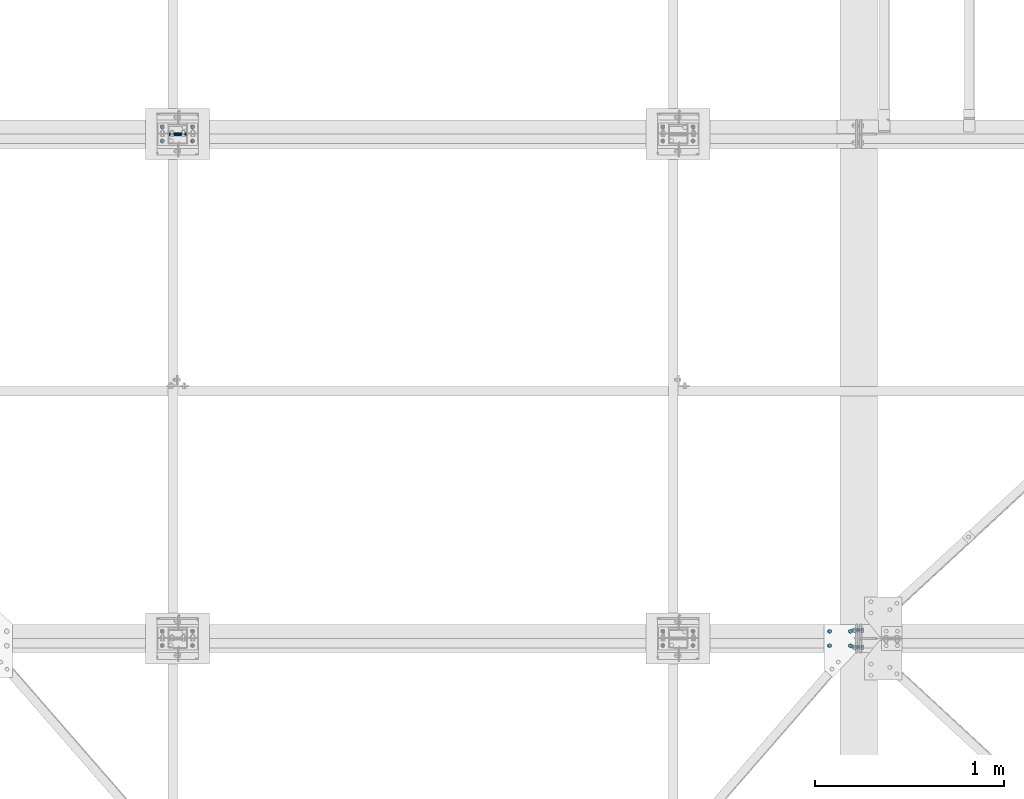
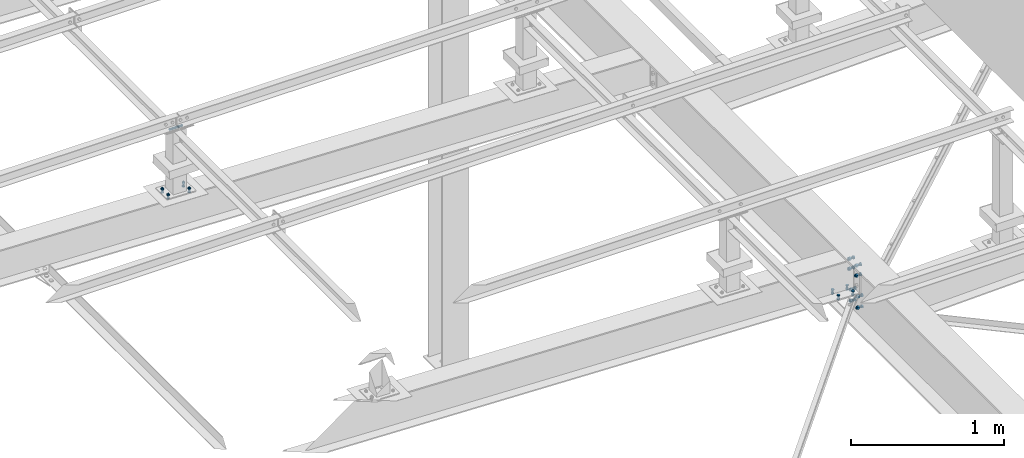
# One storey, part 177 of 3134: 7 mechanical fasteners, 3 elements without a shape of their own.
"""IFC2X3 building model written with IfcOpenShell, lengths in millimetres."""

from ifc_helpers import new_model, si_unit, frame, origin_with_axes, place, context, subcontext, project, spatial, faceted_brep, source, transform, mapped, material, type_object, element, aggregate, save


model = new_model("IFC2X3")

# Units and contexts
model_context = context("Model", 3, precision=1e-05, world=origin_with_axes())
body_context = subcontext(model_context, "Body", "Model", "MODEL_VIEW")
ifc_project = project(units=[si_unit("LENGTHUNIT", "METRE", prefix="MILLI"), si_unit("AREAUNIT", "SQUARE_METRE"), si_unit("VOLUMEUNIT", "CUBIC_METRE"), si_unit("MASSUNIT", "GRAM", prefix="KILO"), si_unit("TIMEUNIT", "SECOND"), si_unit("PLANEANGLEUNIT", "RADIAN"), si_unit("SOLIDANGLEUNIT", "STERADIAN"), si_unit("THERMODYNAMICTEMPERATUREUNIT", "DEGREE_CELSIUS"), si_unit("LUMINOUSINTENSITYUNIT", "LUMEN")], contexts=[model_context])

# Site, building, storey
site_placement = place(None, origin_with_axes())
site = spatial("IfcSite", under=ifc_project, at=site_placement, CompositionType="ELEMENT")
building_placement = place(site_placement, origin_with_axes())
building = spatial("IfcBuilding", under=site, at=building_placement, Name="Undefined", CompositionType="ELEMENT")
storey_placement = place(building_placement, origin_with_axes())
storey = spatial("IfcBuildingStorey", under=building, at=storey_placement, Name="Undefined", CompositionType="ELEMENT", Elevation=0.0)

# Assembly, mechanical fasteners
assembly_1_placement = place(storey_placement, origin_with_axes())
assembly_1 = element("IfcElementAssembly", 1, at=assembly_1_placement, inside=storey, Name="IPE500", AssemblyPlace="NOTDEFINED", PredefinedType="RIGID_FRAME")
ifc_material = material(Name="8.8")
mechanical_fastener_type = type_object("IfcMechanicalFastenerType", Name="Bolt assembly")
shared_shape_1 = source(origin_with_axes(), body_context, "Body", "Brep", [
    faceted_brep([(13.856406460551, 0.0, 0.0), (6.92820323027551, 0.0, 12.0), (-6.92820323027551, 0.0, 12.0), (-13.856406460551, 0.0, 1.69692038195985e-15), (-6.92820323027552, 0.0, -12.0), (6.9282032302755, 0.0, -12.0), (6.9282032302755, 9.99999995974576, -12.0), (-6.92820323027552, 9.99999995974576, -12.0), (-13.856406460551, 9.99999995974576, 1.69692038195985e-15), (-6.92820323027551, 9.99999995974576, 12.0), (6.92820323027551, 9.99999995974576, 12.0), (13.856406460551, 9.99999995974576, 0.0), (8.0, 9.99999995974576, 0.0), (6.92820323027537, 9.99999995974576, 4.00000000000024), (3.99999999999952, 9.99999995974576, 6.92820323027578), (-8.29068785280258e-13, 9.99999995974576, 8.0), (-4.00000000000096, 9.99999995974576, 6.92820323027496), (-6.9282032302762, 9.99999995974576, 3.99999999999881), (-8.0, 9.99999995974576, -1.65813757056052e-12), (-6.92820323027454, 9.99999995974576, -4.00000000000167), (-3.99999999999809, 9.99999995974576, -6.92820323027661), (2.47832457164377e-12, 9.99999995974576, -8.0), (4.00000000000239, 9.99999995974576, -6.92820323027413), (6.92820323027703, 9.99999995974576, -3.99999999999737), (6.92820323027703, 49.9999999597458, -3.99999999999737), (4.00000000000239, 49.9999999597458, -6.92820323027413), (2.47832457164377e-12, 49.9999999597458, -8.0), (-3.99999999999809, 49.9999999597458, -6.92820323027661), (-6.92820323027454, 49.9999999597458, -4.00000000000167), (-8.0, 49.9999999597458, -1.65813757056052e-12), (-6.9282032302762, 49.9999999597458, 3.99999999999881), (-4.00000000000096, 49.9999999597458, 6.92820323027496), (-8.29068785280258e-13, 49.9999999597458, 8.0), (3.99999999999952, 49.9999999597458, 6.92820323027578), (6.92820323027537, 49.9999999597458, 4.00000000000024), (8.0, 49.9999999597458, 0.0), (13.856406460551, 30.1999997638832, 0.0), (6.92820323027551, 30.1999997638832, 12.0), (-6.92820323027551, 30.1999997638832, 12.0), (-13.856406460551, 30.1999997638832, 1.69692038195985e-15), (-6.92820323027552, 30.1999997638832, -12.0), (6.9282032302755, 30.1999997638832, -12.0), (6.9282032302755, 43.1999997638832, -12.0), (-6.92820323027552, 43.1999997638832, -12.0), (-13.856406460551, 43.1999997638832, 1.69692038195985e-15), (-6.92820323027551, 43.1999997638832, 12.0), (6.92820323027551, 43.1999997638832, 12.0), (13.856406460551, 43.1999997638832, 0.0)], [[[0, 1, 2, 3, 4, 5]], [[6, 7, 8, 9, 10, 11]], [[0, 11, 10, 1]], [[1, 10, 9, 2]], [[2, 9, 8, 3]], [[3, 8, 7, 4]], [[4, 7, 6, 5]], [[5, 6, 11, 0]], [[12, 13, 14, 15, 16, 17, 18, 19, 20, 21, 22, 23]], [[24, 25, 26, 27, 28, 29, 30, 31, 32, 33, 34, 35]], [[12, 35, 34, 13]], [[13, 34, 33, 14]], [[14, 33, 32, 15]], [[15, 32, 31, 16]], [[16, 31, 30, 17]], [[17, 30, 29, 18]], [[18, 29, 28, 19]], [[19, 28, 27, 20]], [[20, 27, 26, 21]], [[21, 26, 25, 22]], [[22, 25, 24, 23]], [[23, 24, 35, 12]], [[36, 37, 38, 39, 40, 41]], [[42, 43, 44, 45, 46, 47]], [[36, 47, 46, 37]], [[37, 46, 45, 38]], [[38, 45, 44, 39]], [[39, 44, 43, 40]], [[40, 43, 42, 41]], [[41, 42, 47, 36]]]),
    faceted_brep([(9.0, 20.0999997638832, 0.0), (7.79422863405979, 20.0999997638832, 4.50000000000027), (4.49999999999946, 20.0999997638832, 7.79422863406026), (-9.3270238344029e-13, 20.0999997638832, 9.0), (-4.50000000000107, 20.0999997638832, 7.79422863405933), (-7.79422863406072, 20.0999997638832, 4.49999999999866), (-9.0, 20.0999997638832, -1.86540476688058e-12), (-7.79422863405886, 20.0999997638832, -4.50000000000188), (-4.49999999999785, 20.0999997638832, -7.79422863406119), (2.78811514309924e-12, 20.0999997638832, -9.0), (4.50000000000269, 20.0999997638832, -7.7942286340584), (7.79422863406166, 20.0999997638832, -4.49999999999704), (7.79422863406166, 30.1999997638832, -4.49999999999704), (4.50000000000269, 30.1999997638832, -7.7942286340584), (2.78811514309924e-12, 30.1999997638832, -9.0), (-4.49999999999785, 30.1999997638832, -7.79422863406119), (-7.79422863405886, 30.1999997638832, -4.50000000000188), (-9.0, 30.1999997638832, -1.86540476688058e-12), (-7.79422863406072, 30.1999997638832, 4.49999999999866), (-4.50000000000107, 30.1999997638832, 7.79422863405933), (-9.3270238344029e-13, 30.1999997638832, 9.0), (4.49999999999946, 30.1999997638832, 7.79422863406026), (7.79422863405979, 30.1999997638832, 4.50000000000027), (9.0, 30.1999997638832, 0.0), (9.0, 10.1000023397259, 0.0), (7.79422863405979, 10.1000023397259, 4.50000000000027), (4.49999999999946, 10.1000023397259, 7.79422863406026), (-9.3270238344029e-13, 10.1000023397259, 9.0), (-4.50000000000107, 10.1000023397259, 7.79422863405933), (-7.79422863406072, 10.1000023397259, 4.49999999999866), (-9.0, 10.1000023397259, -1.86540476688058e-12), (-7.79422863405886, 10.1000023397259, -4.50000000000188), (-4.49999999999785, 10.1000023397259, -7.79422863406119), (2.78811514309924e-12, 10.1000023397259, -9.0), (4.50000000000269, 10.1000023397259, -7.7942286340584), (7.79422863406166, 10.1000023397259, -4.49999999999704), (7.79422863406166, 20.2999997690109, -4.49999999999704), (4.50000000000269, 20.2999997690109, -7.7942286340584), (2.78811514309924e-12, 20.2999997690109, -9.0), (-4.49999999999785, 20.2999997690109, -7.79422863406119), (-7.79422863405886, 20.2999997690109, -4.50000000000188), (-9.0, 20.2999997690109, -1.86540476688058e-12), (-7.79422863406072, 20.2999997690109, 4.49999999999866), (-4.50000000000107, 20.2999997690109, 7.79422863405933), (-9.3270238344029e-13, 20.2999997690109, 9.0), (4.49999999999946, 20.2999997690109, 7.79422863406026), (7.79422863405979, 20.2999997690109, 4.50000000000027), (9.0, 20.2999997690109, 0.0)], [[[0, 1, 2, 3, 4, 5, 6, 7, 8, 9, 10, 11]], [[12, 13, 14, 15, 16, 17, 18, 19, 20, 21, 22, 23]], [[0, 23, 22, 1]], [[1, 22, 21, 2]], [[2, 21, 20, 3]], [[3, 20, 19, 4]], [[4, 19, 18, 5]], [[5, 18, 17, 6]], [[6, 17, 16, 7]], [[7, 16, 15, 8]], [[8, 15, 14, 9]], [[9, 14, 13, 10]], [[10, 13, 12, 11]], [[11, 12, 23, 0]], [[24, 25, 26, 27, 28, 29, 30, 31, 32, 33, 34, 35]], [[36, 37, 38, 39, 40, 41, 42, 43, 44, 45, 46, 47]], [[24, 47, 46, 25]], [[25, 46, 45, 26]], [[26, 45, 44, 27]], [[27, 44, 43, 28]], [[28, 43, 42, 29]], [[29, 42, 41, 30]], [[30, 41, 40, 31]], [[31, 40, 39, 32]], [[32, 39, 38, 33]], [[33, 38, 37, 34]], [[34, 37, 36, 35]], [[35, 36, 47, 24]]]),
])
mechanical_fastener_1_placement = place(assembly_1_placement, frame((9310.09999986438, 34867.5, 3631.67000001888), z_axis=(0.0, 1.0, 0.0), x_axis=(0.0, 0.0, -1.0)))
mechanical_fastener_1 = element("IfcMechanicalFastener", 2, at=mechanical_fastener_1_placement, type_object=mechanical_fastener_type, material=ifc_material, Name="Bolt assembly", NominalDiameter=16.0, NominalLength=40.0, context=body_context, shape_type="MappedRepresentation", body=[
    mapped(shared_shape_1, transform((0.0, 0.0, 0.0))),
    mapped(shared_shape_1, transform((80.0, 0.0, 0.0))),
])
mechanical_fastener_2_placement = place(assembly_1_placement, frame((9310.09999986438, 34957.5, 3631.67000001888), z_axis=(0.0, 1.0, 0.0), x_axis=(0.0, 0.0, -1.0)))
mechanical_fastener_2 = element("IfcMechanicalFastener", 3, at=mechanical_fastener_2_placement, type_object=mechanical_fastener_type, material=ifc_material, Name="Bolt assembly", NominalDiameter=16.0, NominalLength=40.0, context=body_context, shape_type="MappedRepresentation", body=[
    mapped(shared_shape_1, transform((0.0, 0.0, 0.0))),
    mapped(shared_shape_1, transform((80.0, 0.0, 0.0))),
])

# Assembly, mechanical fastener
assembly_2_placement = place(storey_placement, origin_with_axes())
assembly_2 = element("IfcElementAssembly", 4, at=assembly_2_placement, inside=storey, Name="PL8", AssemblyPlace="NOTDEFINED", PredefinedType="RIGID_FRAME")
shared_shape_2 = source(origin_with_axes(), body_context, "Body", "Brep", [
    faceted_brep([(10.9696551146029, -21.2001618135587, 0.0), (5.48482755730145, -21.2001618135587, 9.5), (-5.48482755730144, -21.2001618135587, 9.5), (-10.9696551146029, -21.2001618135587, 1.34339530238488e-15), (-5.48482755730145, -21.2001618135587, -9.5), (5.48482755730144, -21.2001618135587, -9.50000000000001), (5.48482755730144, -13.2001618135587, -9.50000000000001), (-5.48482755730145, -13.2001618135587, -9.5), (-10.9696551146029, -13.2001618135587, 1.34339530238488e-15), (-5.48482755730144, -13.2001618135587, 9.5), (5.48482755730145, -13.2001618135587, 9.5), (10.9696551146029, -13.2001618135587, 0.0), (6.0, -13.2001618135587, 0.0), (5.19615242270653, -13.2001618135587, 3.00000000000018), (2.99999999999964, -13.2001618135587, 5.19615242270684), (-6.21801588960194e-13, -13.2001618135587, 6.0), (-3.00000000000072, -13.2001618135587, 5.19615242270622), (-5.19615242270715, -13.2001618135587, 2.9999999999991), (-6.0, -13.2001618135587, -1.24360317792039e-12), (-5.19615242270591, -13.2001618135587, -3.00000000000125), (-2.99999999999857, -13.2001618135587, -5.19615242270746), (1.85874342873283e-12, -13.2001618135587, -6.0), (3.00000000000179, -13.2001618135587, -5.1961524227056), (5.19615242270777, -13.2001618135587, -2.99999999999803), (5.19615242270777, 21.7998381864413, -2.99999999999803), (3.00000000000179, 21.7998381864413, -5.1961524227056), (1.85874342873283e-12, 21.7998381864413, -6.0), (-2.99999999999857, 21.7998381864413, -5.19615242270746), (-5.19615242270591, 21.7998381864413, -3.00000000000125), (-6.0, 21.7998381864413, -1.24360317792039e-12), (-5.19615242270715, 21.7998381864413, 2.9999999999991), (-3.00000000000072, 21.7998381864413, 5.19615242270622), (-6.21801588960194e-13, 21.7998381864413, 6.0), (2.99999999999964, 21.7998381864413, 5.19615242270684), (5.19615242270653, 21.7998381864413, 3.00000000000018), (6.0, 21.7998381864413, 0.0), (10.9696551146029, 4.00000000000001, 0.0), (5.48482755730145, 4.00000000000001, 9.5), (-5.48482755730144, 4.00000000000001, 9.5), (-10.9696551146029, 4.00000000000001, 1.34339530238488e-15), (-5.48482755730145, 4.00000000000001, -9.5), (5.48482755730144, 4.00000000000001, -9.50000000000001), (5.48482755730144, 14.0, -9.50000000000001), (-5.48482755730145, 14.0, -9.5), (-10.9696551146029, 14.0, 1.34339530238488e-15), (-5.48482755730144, 14.0, 9.5), (5.48482755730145, 14.0, 9.5), (10.9696551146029, 14.0, 0.0)], [[[0, 1, 2, 3, 4, 5]], [[6, 7, 8, 9, 10, 11]], [[0, 11, 10, 1]], [[1, 10, 9, 2]], [[2, 9, 8, 3]], [[3, 8, 7, 4]], [[4, 7, 6, 5]], [[5, 6, 11, 0]], [[12, 13, 14, 15, 16, 17, 18, 19, 20, 21, 22, 23]], [[24, 25, 26, 27, 28, 29, 30, 31, 32, 33, 34, 35]], [[12, 35, 34, 13]], [[13, 34, 33, 14]], [[14, 33, 32, 15]], [[15, 32, 31, 16]], [[16, 31, 30, 17]], [[17, 30, 29, 18]], [[18, 29, 28, 19]], [[19, 28, 27, 20]], [[20, 27, 26, 21]], [[21, 26, 25, 22]], [[22, 25, 24, 23]], [[23, 24, 35, 12]], [[36, 37, 38, 39, 40, 41]], [[42, 43, 44, 45, 46, 47]], [[36, 47, 46, 37]], [[37, 46, 45, 38]], [[38, 45, 44, 39]], [[39, 44, 43, 40]], [[40, 43, 42, 41]], [[41, 42, 47, 36]]]),
    faceted_brep([(7.0, -13.1001618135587, 0.0), (6.06217782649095, -13.1001618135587, 3.50000000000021), (3.49999999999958, -13.1001618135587, 6.06217782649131), (-7.25435187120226e-13, -13.1001618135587, 7.0), (-3.50000000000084, -13.1001618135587, 6.06217782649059), (-6.06217782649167, -13.1001618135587, 3.49999999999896), (-7.0, -13.1001618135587, -1.45087037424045e-12), (-6.06217782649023, -13.1001618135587, -3.50000000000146), (-3.49999999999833, -13.1001618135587, -6.06217782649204), (2.1685340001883e-12, -13.1001618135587, -7.0), (3.50000000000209, -13.1001618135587, -6.06217782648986), (6.0621778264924, -13.1001618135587, -3.4999999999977), (6.0621778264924, -3.90018162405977, -3.4999999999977), (3.50000000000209, -3.90014650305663, -6.06217782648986), (2.1685340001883e-12, -3.90018162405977, -7.0), (-3.49999999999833, -3.90014650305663, -6.06217782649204), (-6.06217782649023, -3.90014650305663, -3.50000000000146), (-7.0, -3.90018162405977, -1.45087037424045e-12), (-6.06217782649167, -3.90014650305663, 3.49999999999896), (-3.50000000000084, -3.90014650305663, 6.06217782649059), (-7.25435187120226e-13, -3.90018162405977, 7.0), (3.49999999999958, -3.90018162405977, 6.06217782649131), (6.06217782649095, -3.90018162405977, 3.50000000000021), (7.0, -3.90018162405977, 0.0), (7.0, -4.09998541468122, 0.0), (6.06217782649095, -4.09998541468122, 3.50000000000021), (3.49999999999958, -4.09998541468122, 6.06217782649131), (-7.25435187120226e-13, -4.09998541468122, 7.0), (-3.50000000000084, -4.09998541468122, 6.06217782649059), (-6.06217782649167, -4.09998541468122, 3.49999999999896), (-7.0, -4.09998541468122, -1.45087037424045e-12), (-6.06217782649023, -4.09998541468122, -3.50000000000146), (-3.49999999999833, -4.09998541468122, -6.06217782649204), (2.1685340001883e-12, -4.09998541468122, -7.0), (3.50000000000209, -4.09998541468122, -6.06217782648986), (6.0621778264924, -4.09998541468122, -3.4999999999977), (6.0621778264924, 4.00000000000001, -3.4999999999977), (3.50000000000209, 4.00000000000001, -6.06217782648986), (2.1685340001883e-12, 4.00000000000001, -7.0), (-3.49999999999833, 4.00000000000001, -6.06217782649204), (-6.06217782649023, 4.00000000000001, -3.50000000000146), (-7.0, 4.00000000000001, -1.45087037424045e-12), (-6.06217782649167, 4.00000000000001, 3.49999999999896), (-3.50000000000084, 4.00000000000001, 6.06217782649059), (-7.25435187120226e-13, 4.00000000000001, 7.0), (3.49999999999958, 4.00000000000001, 6.06217782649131), (6.06217782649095, 4.00000000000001, 3.50000000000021), (7.0, 4.00000000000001, 0.0)], [[[0, 1, 2, 3, 4, 5, 6, 7, 8, 9, 10, 11]], [[12, 13, 14, 15, 16, 17, 18, 19, 20, 21, 22, 23]], [[0, 23, 22, 1]], [[1, 22, 21, 2]], [[2, 21, 20, 3]], [[3, 20, 19, 4]], [[4, 19, 18, 5]], [[5, 18, 17, 6]], [[6, 17, 16, 7]], [[7, 16, 15, 8]], [[8, 15, 14, 9]], [[9, 14, 13, 10]], [[10, 13, 12, 11]], [[11, 12, 23, 0]], [[24, 25, 26, 27, 28, 29, 30, 31, 32, 33, 34, 35]], [[36, 37, 38, 39, 40, 41, 42, 43, 44, 45, 46, 47]], [[24, 47, 46, 25]], [[25, 46, 45, 26]], [[26, 45, 44, 27]], [[27, 44, 43, 28]], [[28, 43, 42, 29]], [[29, 42, 41, 30]], [[30, 41, 40, 31]], [[31, 40, 39, 32]], [[32, 39, 38, 33]], [[33, 38, 37, 34]], [[34, 37, 36, 35]], [[35, 36, 47, 24]]]),
])
mechanical_fastener_3_placement = place(assembly_2_placement, frame((9196.19115170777, 34950.5, 3416.94405108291), z_axis=(0.999388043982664, 0.0, -0.0349791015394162), x_axis=(0.0, -1.0, 0.0)))
mechanical_fastener_3 = element("IfcMechanicalFastener", 5, at=mechanical_fastener_3_placement, type_object=mechanical_fastener_type, material=ifc_material, Name="Bolt assembly", NominalDiameter=12.0, NominalLength=35.0, context=body_context, shape_type="MappedRepresentation", body=[
    mapped(shared_shape_2, transform((0.0, -2.31011654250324e-10, -55.0000000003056))),
    mapped(shared_shape_2, transform((76.0, -2.31011654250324e-10, -55.0000000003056))),
    mapped(shared_shape_2, transform((0.0, 2.29192664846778e-10, 55.0000000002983))),
    mapped(shared_shape_2, transform((76.0, 2.29192664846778e-10, 55.0000000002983))),
])
aggregate(assembly_2, [mechanical_fastener_3])

# Mechanical fastener
shared_shape_3 = source(origin_with_axes(), body_context, "Body", "Brep", [
    faceted_brep([(13.856406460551, -10.0, 0.0), (6.92820323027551, -10.0, 12.0), (-6.92820323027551, -10.0, 12.0), (-13.856406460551, -10.0, 1.69692038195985e-15), (-6.92820323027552, -10.0, -12.0), (6.9282032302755, -10.0, -12.0), (6.9282032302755, 0.0, -12.0), (-6.92820323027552, 0.0, -12.0), (-13.856406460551, 0.0, 1.69692038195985e-15), (-6.92820323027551, 0.0, 12.0), (6.92820323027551, 0.0, 12.0), (13.856406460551, 0.0, 0.0), (8.0, 0.0, 0.0), (6.92820323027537, 0.0, 4.00000000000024), (3.99999999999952, 0.0, 6.92820323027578), (-8.29068785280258e-13, 0.0, 8.0), (-4.00000000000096, 0.0, 6.92820323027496), (-6.9282032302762, 0.0, 3.99999999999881), (-8.0, 0.0, -1.65813757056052e-12), (-6.92820323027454, 0.0, -4.00000000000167), (-3.99999999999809, 0.0, -6.92820323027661), (2.47832457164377e-12, 0.0, -8.0), (4.00000000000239, 0.0, -6.92820323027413), (6.92820323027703, 0.0, -3.99999999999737), (6.92820323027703, 40.0, -3.99999999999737), (4.00000000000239, 40.0, -6.92820323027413), (2.47832457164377e-12, 40.0, -8.0), (-3.99999999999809, 40.0, -6.92820323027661), (-6.92820323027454, 40.0, -4.00000000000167), (-8.0, 40.0, -1.65813757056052e-12), (-6.9282032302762, 40.0, 3.99999999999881), (-4.00000000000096, 40.0, 6.92820323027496), (-8.29068785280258e-13, 40.0, 8.0), (3.99999999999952, 40.0, 6.92820323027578), (6.92820323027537, 40.0, 4.00000000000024), (8.0, 40.0, 0.0), (13.856406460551, 20.1999997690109, 0.0), (6.92820323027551, 20.1999997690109, 12.0), (-6.92820323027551, 20.1999997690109, 12.0), (-13.856406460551, 20.1999997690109, 1.69692038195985e-15), (-6.92820323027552, 20.1999997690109, -12.0), (6.9282032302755, 20.1999997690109, -12.0), (6.9282032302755, 33.1999997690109, -12.0), (-6.92820323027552, 33.1999997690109, -12.0), (-13.856406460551, 33.1999997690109, 1.69692038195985e-15), (-6.92820323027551, 33.1999997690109, 12.0), (6.92820323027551, 33.1999997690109, 12.0), (13.856406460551, 33.1999997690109, 0.0)], [[[0, 1, 2, 3, 4, 5]], [[6, 7, 8, 9, 10, 11]], [[0, 11, 10, 1]], [[1, 10, 9, 2]], [[2, 9, 8, 3]], [[3, 8, 7, 4]], [[4, 7, 6, 5]], [[5, 6, 11, 0]], [[12, 13, 14, 15, 16, 17, 18, 19, 20, 21, 22, 23]], [[24, 25, 26, 27, 28, 29, 30, 31, 32, 33, 34, 35]], [[12, 35, 34, 13]], [[13, 34, 33, 14]], [[14, 33, 32, 15]], [[15, 32, 31, 16]], [[16, 31, 30, 17]], [[17, 30, 29, 18]], [[18, 29, 28, 19]], [[19, 28, 27, 20]], [[20, 27, 26, 21]], [[21, 26, 25, 22]], [[22, 25, 24, 23]], [[23, 24, 35, 12]], [[36, 37, 38, 39, 40, 41]], [[42, 43, 44, 45, 46, 47]], [[36, 47, 46, 37]], [[37, 46, 45, 38]], [[38, 45, 44, 39]], [[39, 44, 43, 40]], [[40, 43, 42, 41]], [[41, 42, 47, 36]]]),
    faceted_brep([(9.0, 0.100000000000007, 0.0), (7.79422863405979, 0.100000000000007, 4.50000000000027), (4.49999999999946, 0.100000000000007, 7.79422863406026), (-9.3270238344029e-13, 0.100000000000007, 9.0), (-4.50000000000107, 0.100000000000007, 7.79422863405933), (-7.79422863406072, 0.100000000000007, 4.49999999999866), (-9.0, 0.100000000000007, -1.86540476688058e-12), (-7.79422863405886, 0.100000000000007, -4.50000000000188), (-4.49999999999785, 0.100000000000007, -7.79422863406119), (2.78811514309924e-12, 0.100000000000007, -9.0), (4.50000000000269, 0.100000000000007, -7.7942286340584), (7.79422863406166, 0.100000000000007, -4.49999999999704), (7.79422863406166, 10.1000023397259, -4.49999999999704), (4.50000000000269, 10.1000023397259, -7.7942286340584), (2.78811514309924e-12, 10.1000023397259, -9.0), (-4.49999999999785, 10.1000023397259, -7.79422863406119), (-7.79422863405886, 10.1000023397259, -4.50000000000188), (-9.0, 10.1000023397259, -1.86540476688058e-12), (-7.79422863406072, 10.1000023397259, 4.49999999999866), (-4.50000000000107, 10.1000023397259, 7.79422863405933), (-9.3270238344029e-13, 10.1000023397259, 9.0), (4.49999999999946, 10.1000023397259, 7.79422863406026), (7.79422863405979, 10.1000023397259, 4.50000000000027), (9.0, 10.1000023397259, 0.0), (9.0, 9.89999999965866, 0.0), (7.79422863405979, 9.89999999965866, 4.50000000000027), (4.49999999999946, 9.89999999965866, 7.79422863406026), (-9.3270238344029e-13, 9.89999999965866, 9.0), (-4.50000000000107, 9.89999999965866, 7.79422863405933), (-7.79422863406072, 9.89999999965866, 4.49999999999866), (-9.0, 9.89999999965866, -1.86540476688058e-12), (-7.79422863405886, 9.89999999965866, -4.50000000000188), (-4.49999999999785, 9.89999999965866, -7.79422863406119), (2.78811514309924e-12, 9.89999999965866, -9.0), (4.50000000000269, 9.89999999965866, -7.7942286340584), (7.79422863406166, 9.89999999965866, -4.49999999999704), (7.79422863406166, 20.1999997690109, -4.49999999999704), (4.50000000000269, 20.1999997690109, -7.7942286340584), (2.78811514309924e-12, 20.1999997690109, -9.0), (-4.49999999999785, 20.1999997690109, -7.79422863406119), (-7.79422863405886, 20.1999997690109, -4.50000000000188), (-9.0, 20.1999997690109, -1.86540476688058e-12), (-7.79422863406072, 20.1999997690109, 4.49999999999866), (-4.50000000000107, 20.1999997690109, 7.79422863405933), (-9.3270238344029e-13, 20.1999997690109, 9.0), (4.49999999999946, 20.1999997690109, 7.79422863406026), (7.79422863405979, 20.1999997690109, 4.50000000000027), (9.0, 20.1999997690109, 0.0)], [[[0, 1, 2, 3, 4, 5, 6, 7, 8, 9, 10, 11]], [[12, 13, 14, 15, 16, 17, 18, 19, 20, 21, 22, 23]], [[0, 23, 22, 1]], [[1, 22, 21, 2]], [[2, 21, 20, 3]], [[3, 20, 19, 4]], [[4, 19, 18, 5]], [[5, 18, 17, 6]], [[6, 17, 16, 7]], [[7, 16, 15, 8]], [[8, 15, 14, 9]], [[9, 14, 13, 10]], [[10, 13, 12, 11]], [[11, 12, 23, 0]], [[24, 25, 26, 27, 28, 29, 30, 31, 32, 33, 34, 35]], [[36, 37, 38, 39, 40, 41, 42, 43, 44, 45, 46, 47]], [[24, 47, 46, 25]], [[25, 46, 45, 26]], [[26, 45, 44, 27]], [[27, 44, 43, 28]], [[28, 43, 42, 29]], [[29, 42, 41, 30]], [[30, 41, 40, 31]], [[31, 40, 39, 32]], [[32, 39, 38, 33]], [[33, 38, 37, 34]], [[34, 37, 36, 35]], [[35, 36, 47, 24]]]),
])
mechanical_fastener_4_placement = place(assembly_1_placement, frame((9310.09999986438, 34867.5, 3381.67000001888), z_axis=(0.0, 1.0, 0.0), x_axis=(0.0, 0.0, -1.0)))
mechanical_fastener_4 = element("IfcMechanicalFastener", 6, at=mechanical_fastener_4_placement, type_object=mechanical_fastener_type, material=ifc_material, Name="Bolt assembly", NominalDiameter=16.0, NominalLength=40.0, context=body_context, shape_type="MappedRepresentation", body=[
    mapped(shared_shape_3, transform((0.0, 0.0, 0.0))),
    mapped(shared_shape_3, transform((90.0, 0.0, 0.0))),
])

mechanical_fastener_5_placement = place(assembly_1_placement, frame((9310.09999986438, 34957.5, 3381.67000001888), z_axis=(0.0, 1.0, 0.0), x_axis=(0.0, 0.0, -1.0)))
mechanical_fastener_5 = element("IfcMechanicalFastener", 7, at=mechanical_fastener_5_placement, type_object=mechanical_fastener_type, material=ifc_material, Name="Bolt assembly", NominalDiameter=16.0, NominalLength=40.0, context=body_context, shape_type="MappedRepresentation", body=[
    mapped(shared_shape_3, transform((0.0, 0.0, 0.0))),
    mapped(shared_shape_3, transform((90.0, 0.0, 0.0))),
])

aggregate(assembly_1, [mechanical_fastener_1, mechanical_fastener_2, mechanical_fastener_4, mechanical_fastener_5])

# Assembly, mechanical fasteners
assembly_3_placement = place(storey_placement, origin_with_axes())
assembly_3 = element("IfcElementAssembly", 8, at=assembly_3_placement, inside=storey, AssemblyPlace="NOTDEFINED", PredefinedType="RIGID_FRAME")
shared_shape_4 = source(origin_with_axes(), body_context, "Body", "Brep", [
    faceted_brep([(10.9696551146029, -4.18280906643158, 0.0), (5.48482755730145, -4.18280906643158, 9.5), (-5.48482755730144, -4.18280906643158, 9.5), (-10.9696551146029, -4.18280906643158, 1.34339530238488e-15), (-5.48482755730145, -4.18280906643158, -9.5), (5.48482755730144, -4.18280906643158, -9.50000000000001), (5.48482755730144, 3.81719093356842, -9.50000000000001), (-5.48482755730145, 3.81719093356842, -9.5), (-10.9696551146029, 3.81719093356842, 1.34339530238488e-15), (-5.48482755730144, 3.81719093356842, 9.5), (5.48482755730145, 3.81719093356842, 9.5), (10.9696551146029, 3.81719093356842, 0.0), (6.0, 3.81719093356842, 0.0), (5.19615242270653, 3.81719093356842, 3.00000000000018), (2.99999999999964, 3.81719093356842, 5.19615242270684), (-6.21801588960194e-13, 3.81719093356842, 6.0), (-3.00000000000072, 3.81719093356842, 5.19615242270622), (-5.19615242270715, 3.81719093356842, 2.9999999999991), (-6.0, 3.81719093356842, -1.24360317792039e-12), (-5.19615242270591, 3.81719093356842, -3.00000000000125), (-2.99999999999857, 3.81719093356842, -5.19615242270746), (1.85874342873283e-12, 3.81719093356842, -6.0), (3.00000000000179, 3.81719093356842, -5.1961524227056), (5.19615242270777, 3.81719093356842, -2.99999999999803), (5.19615242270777, 38.8171909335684, -2.99999999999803), (3.00000000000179, 38.8171909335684, -5.1961524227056), (1.85874342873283e-12, 38.8171909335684, -6.0), (-2.99999999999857, 38.8171909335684, -5.19615242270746), (-5.19615242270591, 38.8171909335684, -3.00000000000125), (-6.0, 38.8171909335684, -1.24360317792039e-12), (-5.19615242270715, 38.8171909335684, 2.9999999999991), (-3.00000000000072, 38.8171909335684, 5.19615242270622), (-6.21801588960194e-13, 38.8171909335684, 6.0), (2.99999999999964, 38.8171909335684, 5.19615242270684), (5.19615242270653, 38.8171909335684, 3.00000000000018), (6.0, 38.8171909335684, 0.0), (10.9696551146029, 23.0139082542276, 0.0), (5.48482755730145, 23.0139082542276, 9.5), (-5.48482755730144, 23.0139082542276, 9.5), (-10.9696551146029, 23.0139082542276, 1.34339530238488e-15), (-5.48482755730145, 23.0139082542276, -9.5), (5.48482755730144, 23.0139082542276, -9.50000000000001), (5.48482755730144, 33.0139082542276, -9.50000000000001), (-5.48482755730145, 33.0139082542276, -9.5), (-10.9696551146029, 33.0139082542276, 1.34339530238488e-15), (-5.48482755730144, 33.0139082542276, 9.5), (5.48482755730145, 33.0139082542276, 9.5), (10.9696551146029, 33.0139082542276, 0.0)], [[[0, 1, 2, 3, 4, 5]], [[6, 7, 8, 9, 10, 11]], [[0, 11, 10, 1]], [[1, 10, 9, 2]], [[2, 9, 8, 3]], [[3, 8, 7, 4]], [[4, 7, 6, 5]], [[5, 6, 11, 0]], [[12, 13, 14, 15, 16, 17, 18, 19, 20, 21, 22, 23]], [[24, 25, 26, 27, 28, 29, 30, 31, 32, 33, 34, 35]], [[12, 35, 34, 13]], [[13, 34, 33, 14]], [[14, 33, 32, 15]], [[15, 32, 31, 16]], [[16, 31, 30, 17]], [[17, 30, 29, 18]], [[18, 29, 28, 19]], [[19, 28, 27, 20]], [[20, 27, 26, 21]], [[21, 26, 25, 22]], [[22, 25, 24, 23]], [[23, 24, 35, 12]], [[36, 37, 38, 39, 40, 41]], [[42, 43, 44, 45, 46, 47]], [[36, 47, 46, 37]], [[37, 46, 45, 38]], [[38, 45, 44, 39]], [[39, 44, 43, 40]], [[40, 43, 42, 41]], [[41, 42, 47, 36]]]),
    faceted_brep([(7.0, 3.91719093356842, 0.0), (6.06217782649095, 3.91719093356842, 3.50000000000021), (3.49999999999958, 3.91719093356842, 6.06217782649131), (-7.25435187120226e-13, 3.91719093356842, 7.0), (-3.50000000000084, 3.91719093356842, 6.06217782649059), (-6.06217782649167, 3.91719093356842, 3.49999999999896), (-7.0, 3.91719093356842, -1.45087037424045e-12), (-6.06217782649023, 3.91719093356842, -3.50000000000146), (-3.49999999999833, 3.91719093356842, -6.06217782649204), (2.1685340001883e-12, 3.91719093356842, -7.0), (3.50000000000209, 3.91719093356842, -6.06217782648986), (6.0621778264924, 3.91719093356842, -3.4999999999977), (6.0621778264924, 13.1171907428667, -3.4999999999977), (3.50000000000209, 13.1171907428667, -6.06217782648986), (2.1685340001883e-12, 13.1171907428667, -7.0), (-3.49999999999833, 13.1171907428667, -6.06217782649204), (-6.06217782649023, 13.1171907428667, -3.50000000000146), (-7.0, 13.1171907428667, -1.45087037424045e-12), (-6.06217782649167, 13.1171907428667, 3.49999999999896), (-3.50000000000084, 13.1171907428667, 6.06217782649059), (-7.25435187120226e-13, 13.1171907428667, 7.0), (3.49999999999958, 13.1171907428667, 6.06217782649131), (6.06217782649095, 13.1171907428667, 3.50000000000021), (7.0, 13.1171907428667, 0.0), (7.0, 14.9139082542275, 0.0), (6.06217782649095, 14.9139082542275, 3.50000000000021), (3.49999999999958, 14.9139082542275, 6.06217782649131), (-7.25435187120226e-13, 14.9139082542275, 7.0), (-3.50000000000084, 14.9139082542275, 6.06217782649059), (-6.06217782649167, 14.9139082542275, 3.49999999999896), (-7.0, 14.9139082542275, -1.45087037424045e-12), (-6.06217782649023, 14.9139082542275, -3.50000000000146), (-3.49999999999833, 14.9139082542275, -6.06217782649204), (2.1685340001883e-12, 14.9139082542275, -7.0), (3.50000000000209, 14.9139082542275, -6.06217782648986), (6.0621778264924, 14.9139082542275, -3.4999999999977), (6.0621778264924, 23.0139082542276, -3.4999999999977), (3.50000000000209, 23.0139082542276, -6.06217782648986), (2.1685340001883e-12, 23.0139082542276, -7.0), (-3.49999999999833, 23.0139082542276, -6.06217782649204), (-6.06217782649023, 23.0139082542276, -3.50000000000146), (-7.0, 23.0139082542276, -1.45087037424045e-12), (-6.06217782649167, 23.0139082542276, 3.49999999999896), (-3.50000000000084, 23.0139082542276, 6.06217782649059), (-7.25435187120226e-13, 23.0139082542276, 7.0), (3.49999999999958, 23.0139082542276, 6.06217782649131), (6.06217782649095, 23.0139082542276, 3.50000000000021), (7.0, 23.0139082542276, 0.0)], [[[0, 1, 2, 3, 4, 5, 6, 7, 8, 9, 10, 11]], [[12, 13, 14, 15, 16, 17, 18, 19, 20, 21, 22, 23]], [[0, 23, 22, 1]], [[1, 22, 21, 2]], [[2, 21, 20, 3]], [[3, 20, 19, 4]], [[4, 19, 18, 5]], [[5, 18, 17, 6]], [[6, 17, 16, 7]], [[7, 16, 15, 8]], [[8, 15, 14, 9]], [[9, 14, 13, 10]], [[10, 13, 12, 11]], [[11, 12, 23, 0]], [[24, 25, 26, 27, 28, 29, 30, 31, 32, 33, 34, 35]], [[36, 37, 38, 39, 40, 41, 42, 43, 44, 45, 46, 47]], [[24, 47, 46, 25]], [[25, 46, 45, 26]], [[26, 45, 44, 27]], [[27, 44, 43, 28]], [[28, 43, 42, 29]], [[29, 42, 41, 30]], [[30, 41, 40, 31]], [[31, 40, 39, 32]], [[32, 39, 38, 33]], [[33, 38, 37, 34]], [[34, 37, 36, 35]], [[35, 36, 47, 24]]]),
])
mechanical_fastener_6_placement = place(assembly_3_placement, frame((5690.86474073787, 37619.2499999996, 3827.79222028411), z_axis=(-0.999387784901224, 0.0, 0.0349865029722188), x_axis=(0.0, -1.0, 0.0)))
mechanical_fastener_6 = element("IfcMechanicalFastener", 9, at=mechanical_fastener_6_placement, type_object=mechanical_fastener_type, material=ifc_material, Name="Bolt assembly", NominalDiameter=12.0, NominalLength=35.0, context=body_context, shape_type="MappedRepresentation", body=[
    mapped(shared_shape_4, transform((0.0, -5.32963895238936e-10, -79.9999999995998))),
    mapped(shared_shape_4, transform((76.0, -5.32963895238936e-10, -79.9999999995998))),
    mapped(shared_shape_4, transform((0.0, 5.3114490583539e-10, 79.9999999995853))),
    mapped(shared_shape_4, transform((76.0, 5.3114490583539e-10, 79.9999999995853))),
])
shared_shape_5 = source(origin_with_axes(), body_context, "Body", "Brep", [
    faceted_brep([(9.0, -50.0, 0.0), (7.79422863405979, -50.0, 4.50000000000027), (4.49999999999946, -50.0, 7.79422863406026), (-9.3270238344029e-13, -50.0, 9.0), (-4.50000000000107, -50.0, 7.79422863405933), (-7.79422863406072, -50.0, 4.49999999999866), (-9.0, -50.0, -1.86540476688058e-12), (-7.79422863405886, -50.0, -4.50000000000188), (-4.49999999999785, -50.0, -7.79422863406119), (2.78811514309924e-12, -50.0, -9.0), (4.50000000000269, -50.0, -7.7942286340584), (7.79422863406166, -50.0, -4.49999999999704), (7.79422863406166, 50.1, -4.49999999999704), (4.50000000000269, 50.1, -7.7942286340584), (2.78811514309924e-12, 50.1, -9.0), (-4.49999999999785, 50.1, -7.79422863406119), (-7.79422863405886, 50.1, -4.50000000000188), (-9.0, 50.1, -1.86540476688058e-12), (-7.79422863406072, 50.1, 4.49999999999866), (-4.50000000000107, 50.1, 7.79422863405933), (-9.3270238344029e-13, 50.1, 9.0), (4.49999999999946, 50.1, 7.79422863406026), (7.79422863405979, 50.1, 4.50000000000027), (9.0, 50.1, 0.0)], [[[0, 1, 2, 3, 4, 5, 6, 7, 8, 9, 10, 11]], [[12, 13, 14, 15, 16, 17, 18, 19, 20, 21, 22, 23]], [[0, 23, 22, 1]], [[1, 22, 21, 2]], [[2, 21, 20, 3]], [[3, 20, 19, 4]], [[4, 19, 18, 5]], [[5, 18, 17, 6]], [[6, 17, 16, 7]], [[7, 16, 15, 8]], [[8, 15, 14, 9]], [[9, 14, 13, 10]], [[10, 13, 12, 11]], [[11, 12, 23, 0]]]),
])
mechanical_fastener_7_placement = place(assembly_3_placement, frame((5691.67, 37581.25, 4345.0), z_axis=(0.0, 1.0, 0.0), x_axis=(0.0, 0.0, 1.0)))
mechanical_fastener_7 = element("IfcMechanicalFastener", 10, at=mechanical_fastener_7_placement, type_object=mechanical_fastener_type, material=ifc_material, Name="Bolt assembly", NominalDiameter=16.0, NominalLength=100.0, context=body_context, shape_type="MappedRepresentation", body=[
    mapped(shared_shape_5, transform((0.0, 0.0, 0.0))),
])
aggregate(assembly_3, [mechanical_fastener_6, mechanical_fastener_7])

save(model, "model.ifc")
